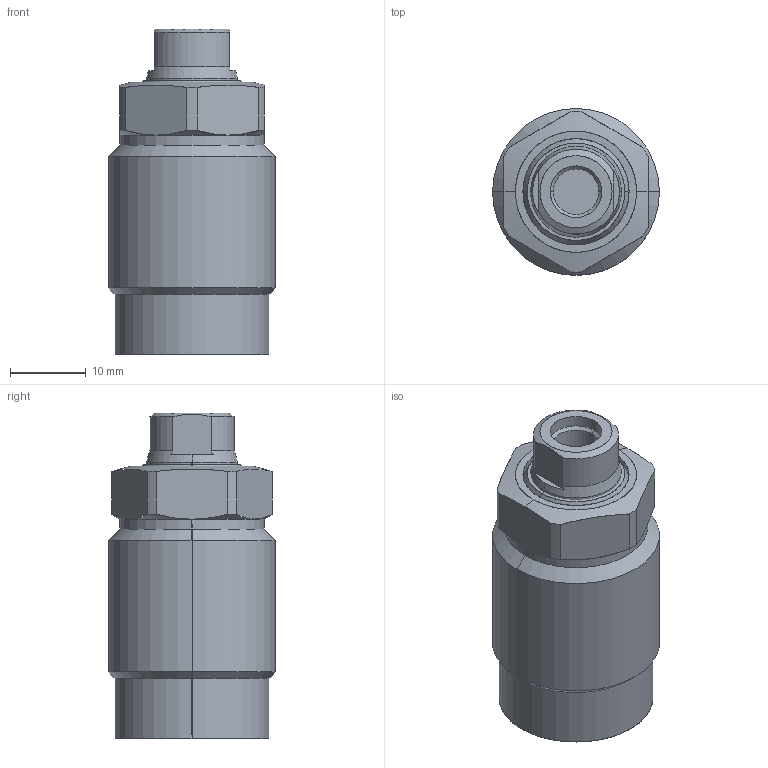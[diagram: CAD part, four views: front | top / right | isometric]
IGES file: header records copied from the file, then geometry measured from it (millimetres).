
Start section: SolidWorks IGES file using analytic representation for surfaces
Global section: file name: D:\abhilash\nijil\cylinder\Clasys1\dp converted\02\pt\02\0102-0202.IGS; native system: SolidWorks 2010; preprocessor: SolidWorks 2010; author: nidheesh; date: 130730.113559; units: millimetre
Bounding box: 22 x 22 x 43 mm (x, y, z)
Surface area: 4114.5 mm2 (no closed solid volume)
Topology: 0 solids, 0 shells, 74 faces, 900 edges, 900 vertices
Faces by surface type: revolution 50, bspline 24
